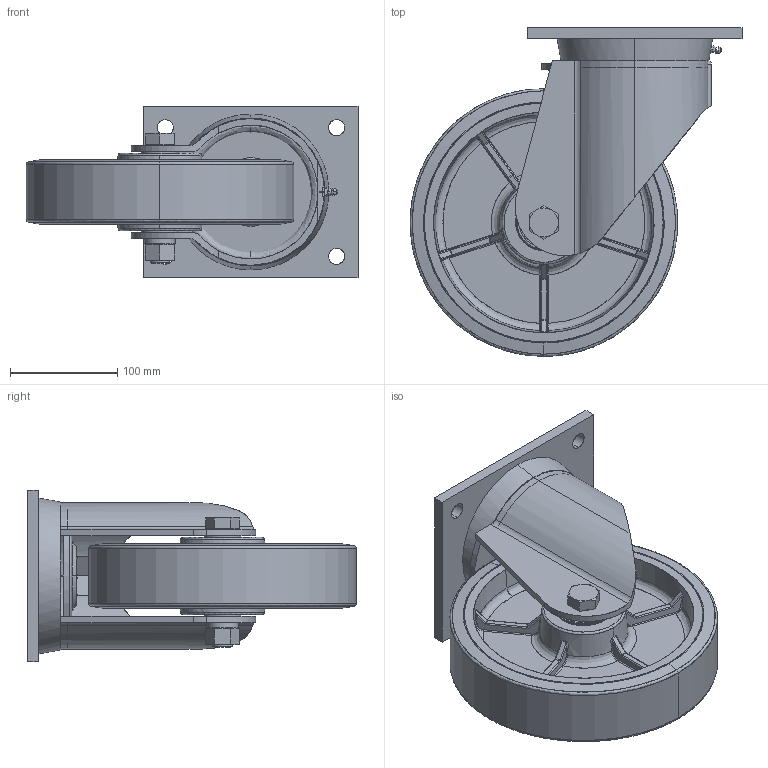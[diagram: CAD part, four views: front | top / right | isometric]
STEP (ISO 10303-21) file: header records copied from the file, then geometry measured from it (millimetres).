
FILE_DESCRIPTION(('STEP AP203'),'2;1');
FILE_NAME('7337_CL.stp','2010-04-30T16:41:23',(''),(''),'2009.1.108','THINKDESIGN','');
FILE_SCHEMA(('CONFIG_CONTROL_DESIGN'));
Bounding box: 310 x 306.97 x 160 mm (x, y, z)
Volume: 61747.5 mm3; surface area: 454732.7 mm2
Topology: 6 solids, 6 shells, 655 faces, 2902 edges, 2849 vertices
Faces by surface type: bspline 316, cylinder 201, plane 138
Full cylindrical faces by diameter (mm): 15.294 x1, 18 x1, 19 x1, 25 x1, 25.3 x2, 25.34 x1, 35 x2
Entity records: 47455 total; most frequent: CARTESIAN_POINT 34761, COMPOSITE_CURVE_SEGMENT 2751, DIRECTION 2238, B_SPLINE_CURVE_WITH_KNOTS 1167, TRIMMED_CURVE 1070, VECTOR 802, LINE 802, AXIS2_PLACEMENT_3D 718
